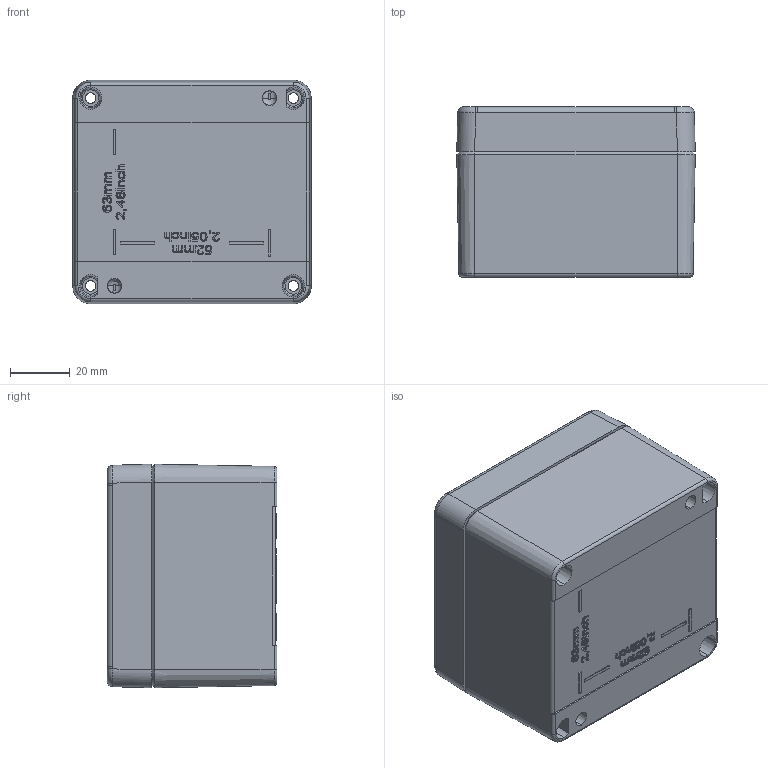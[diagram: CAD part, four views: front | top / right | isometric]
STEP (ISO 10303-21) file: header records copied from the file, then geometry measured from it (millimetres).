
FILE_DESCRIPTION (( 'STEP AP203' ), '1' );
FILE_NAME ('BB031.STEP', '2024-12-26T16:23:32', ( '' ), ( '' ), 'SwSTEP 2.0', 'SolidWorks 2019', '' );
FILE_SCHEMA (( 'CONFIG_CONTROL_DESIGN' ));
Length unit declared in the file: millimetre
Products named in the file (3): BB031; BASE_80_75_57; LID_80_75_57
Assembly tree (2 placements, depth 2):
  BB031
    BASE_80_75_57
    LID_80_75_57
Bounding box: 80 x 57 x 75 mm (x, y, z)
Volume: 110442.4 mm3; surface area: 61262.6 mm2
Topology: 2 solids, 2 shells, 878 faces, 2222 edges, 1416 vertices
Faces by surface type: plane 335, bspline 206, cone 168, cylinder 107, torus 62
Entity records: 41948 total; most frequent: CARTESIAN_POINT 22285, ORIENTED_EDGE 4436, DIRECTION 3237, EDGE_CURVE 2218, VERTEX_POINT 1416, VECTOR 1171, LINE 1171, AXIS2_PLACEMENT_3D 1033
